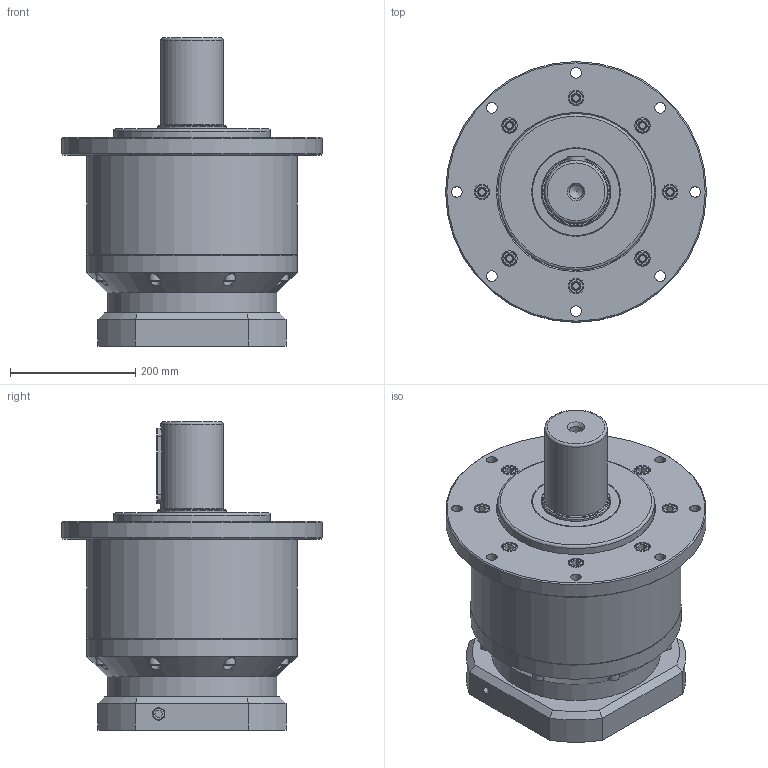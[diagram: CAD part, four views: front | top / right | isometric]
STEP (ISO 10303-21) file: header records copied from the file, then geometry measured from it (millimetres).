
FILE_DESCRIPTION((''),'2;1');
FILE_NAME('D:\WORK\감속기 카다로그 도면\ATG Reducer(홈페이지)\KSB\KSB-330-1.stp','2015-03-24T10:29:36',('young'),(''),'Autodesk Inventor 2012','Autodesk Inventor 2012','');
FILE_SCHEMA(('AUTOMOTIVE_DESIGN { 1 0 10303 214 1 1 1 1 }'));
Length unit declared in the file: millimetre
Products named in the file (1): KSB-330-1
Bounding box: 416 x 416 x 492 mm (x, y, z)
Volume: 14164270 mm3; surface area: 1647447.7 mm2
Topology: 37 solids, 37 shells, 913 faces, 1983 edges, 1230 vertices
Faces by surface type: plane 518, cylinder 199, cone 158, torus 38
Full cylindrical faces by diameter (mm): 8.5 x8, 10 x8, 10.2 x9, 11 x8, 12 x9, 13 x9, 14 x12, 16 x16, 17 x16, 17.856 x2, 18 x9, 19 x10, 21 x1, 24 x8, 25 x8, 75 x1, 82 x1, 98 x1, 99.7 x1, 100 x2, 108 x1, 109.8 x1, 110 x2, 116 x1, 118 x1, 120 x2, 136 x1, 140 x2, 200 x1, 225 x2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
Entity records: 23261 total; most frequent: CARTESIAN_POINT 4419, DIRECTION 4050, ORIENTED_EDGE 3166, AXIS2_PLACEMENT_3D 1628, EDGE_CURVE 1583, EDGE_LOOP 1414, VERTEX_POINT 1159, FACE_OUTER_BOUND 913
